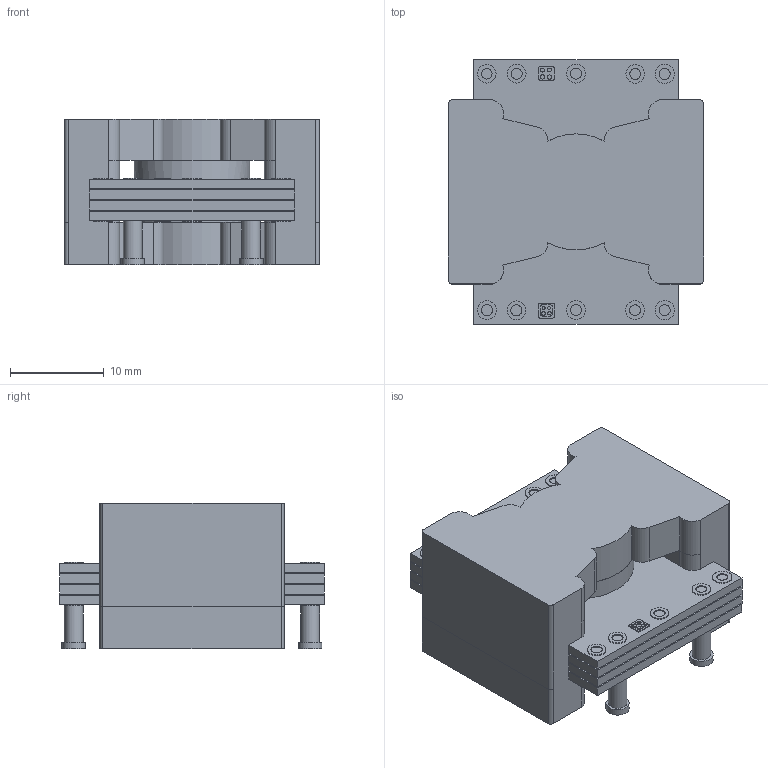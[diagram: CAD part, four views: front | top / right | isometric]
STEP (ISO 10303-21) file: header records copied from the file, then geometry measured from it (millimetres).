
FILE_DESCRIPTION(('FreeCAD Model'),'2;1');
FILE_NAME('Open CASCADE Shape Model','2025-04-12T18:51:44',('Author'),( ''),'Open CASCADE STEP processor 7.8','FreeCAD','Unknown');
FILE_SCHEMA(('AUTOMOTIVE_DESIGN { 1 0 10303 214 1 1 1 1 }'));
Length unit declared in the file: millimetre
Products named in the file (1): Pad010
Bounding box: 27.2 x 28.21 x 15.55 mm (x, y, z)
Volume: 7699 mm3; surface area: 6364 mm2
Topology: 1 solids, 5 shells, 331 faces, 781 edges, 508 vertices
Faces by surface type: plane 189, cylinder 142
Full cylindrical faces by diameter (mm): 0.303 x2, 0.331 x2, 0.366 x2, 0.381 x2, 0.406 x2, 0.416 x2, 0.449 x2, 0.452 x2, 1.109 x2, 1.158 x2, 1.161 x2, 1.164 x2, 1.166 x2, 1.173 x2, 1.185 x2, 1.186 x2, 1.191 x2, 1.2 x2, 1.976 x2, 1.977 x2, 1.985 x2, 1.987 x2, 1.992 x2, 1.998 x4, 2 x2, 2.055 x2, 2.066 x2, 2.5 x3, 2.504 x1, 12.329 x1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
Entity records: 11531 total; most frequent: DIRECTION 1732, CARTESIAN_POINT 1629, ORIENTED_EDGE 1562, EDGE_CURVE 781, AXIS2_PLACEMENT_3D 627, VERTEX_POINT 508, LINE 478, VECTOR 478
